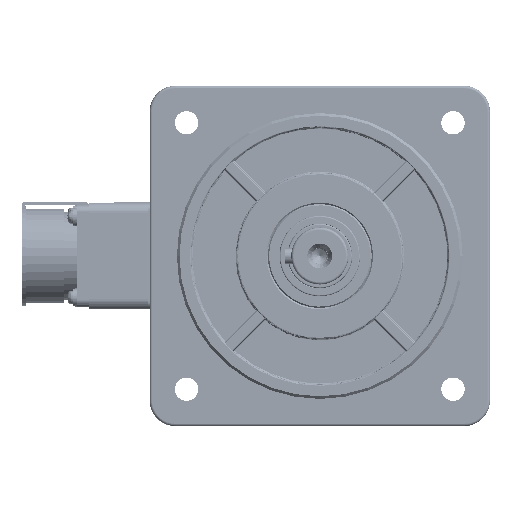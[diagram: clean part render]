
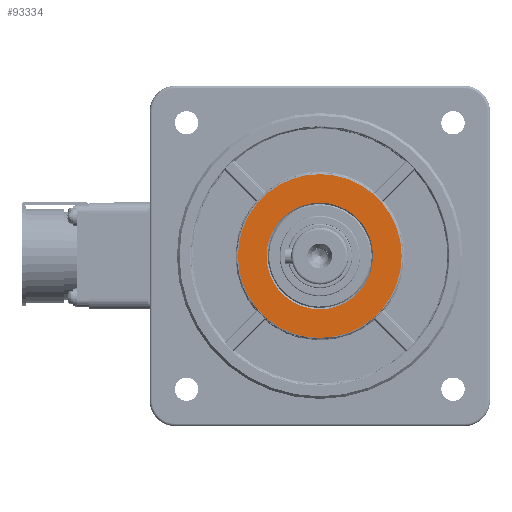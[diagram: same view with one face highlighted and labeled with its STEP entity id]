
A CAD part, left-side view. The second image highlights one B-rep face of the part: STEP entity #93334.
In plain terms, the highlighted planar face has unit normal (-1, 0, 0) as drawn and (1, 0, 0) by its records, which use the part's own axes.
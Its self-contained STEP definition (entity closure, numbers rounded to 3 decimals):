
#2547 = AXIS2_PLACEMENT_3D ( 'NONE', #43688, #81066, #118428 ) ;
#7664 = VERTEX_POINT ( 'NONE', #21210 ) ;
#8207 = FACE_BOUND ( 'NONE', #90441, .T. ) ;
#8636 = CARTESIAN_POINT ( 'NONE',  ( 30., 0., -31.5 ) ) ;
#11265 = CARTESIAN_POINT ( 'NONE',  ( 30., 0., 31.5 ) ) ;
#12335 = CARTESIAN_POINT ( 'NONE',  ( 30., 0., 0. ) ) ;
#14471 = AXIS2_PLACEMENT_3D ( 'NONE', #114499, #30573, #67946 ) ;
#16285 = EDGE_LOOP ( 'NONE', ( #38408, #59425 ) ) ;
#21210 = CARTESIAN_POINT ( 'NONE',  ( 30., 0., -20.5 ) ) ;
#29103 = EDGE_CURVE ( 'NONE', #7664, #47887, #67377, .T. ) ;
#30573 = DIRECTION ( 'NONE',  ( -1., 0., 0. ) ) ;
#36436 = DIRECTION ( 'NONE',  ( -1., 0., 0. ) ) ;
#36515 = CARTESIAN_POINT ( 'NONE',  ( 30., 0., 0. ) ) ;
#38408 = ORIENTED_EDGE ( 'NONE', *, *, #98096, .T. ) ;
#43688 = CARTESIAN_POINT ( 'NONE',  ( 30., 0., 0. ) ) ;
#45631 = FACE_OUTER_BOUND ( 'NONE', #16285, .T. ) ;
#47485 = CIRCLE ( 'NONE', #115954, 31.5 ) ;
#47887 = VERTEX_POINT ( 'NONE', #69798 ) ;
#49506 = ORIENTED_EDGE ( 'NONE', *, *, #29103, .T. ) ;
#49769 = DIRECTION ( 'NONE',  ( 1., 0., 0. ) ) ;
#55429 = CIRCLE ( 'NONE', #2547, 20.5 ) ;
#59425 = ORIENTED_EDGE ( 'NONE', *, *, #97748, .T. ) ;
#61199 = AXIS2_PLACEMENT_3D ( 'NONE', #36515, #73893, #111262 ) ;
#67377 = CIRCLE ( 'NONE', #14471, 20.5 ) ;
#67946 = DIRECTION ( 'NONE',  ( 0., 0., 1. ) ) ;
#69798 = CARTESIAN_POINT ( 'NONE',  ( 30., 0., 20.5 ) ) ;
#73819 = DIRECTION ( 'NONE',  ( 0., 0., 1. ) ) ;
#73893 = DIRECTION ( 'NONE',  ( 1., 0., 0. ) ) ;
#81066 = DIRECTION ( 'NONE',  ( -1., 0., 0. ) ) ;
#82604 = ORIENTED_EDGE ( 'NONE', *, *, #95720, .T. ) ;
#82993 = PLANE ( 'NONE',  #94571 ) ;
#87126 = DIRECTION ( 'NONE',  ( 0., 0., 1. ) ) ;
#90441 = EDGE_LOOP ( 'NONE', ( #49506, #82604 ) ) ;
#93334 = ADVANCED_FACE ( 'NONE', ( #8207, #45631 ), #82993, .F. ) ;
#94571 = AXIS2_PLACEMENT_3D ( 'NONE', #120359, #36436, #73819 ) ;
#95720 = EDGE_CURVE ( 'NONE', #47887, #7664, #55429, .T. ) ;
#97748 = EDGE_CURVE ( 'NONE', #104356, #110030, #47485, .T. ) ;
#98096 = EDGE_CURVE ( 'NONE', #110030, #104356, #114035, .T. ) ;
#104356 = VERTEX_POINT ( 'NONE', #8636 ) ;
#110030 = VERTEX_POINT ( 'NONE', #11265 ) ;
#111262 = DIRECTION ( 'NONE',  ( 0., 0., 1. ) ) ;
#114035 = CIRCLE ( 'NONE', #61199, 31.5 ) ;
#114499 = CARTESIAN_POINT ( 'NONE',  ( 30., 0., 0. ) ) ;
#115954 = AXIS2_PLACEMENT_3D ( 'NONE', #12335, #49769, #87126 ) ;
#118428 = DIRECTION ( 'NONE',  ( 0., 0., 1. ) ) ;
#120359 = CARTESIAN_POINT ( 'NONE',  ( 30., 20., 0. ) ) ;
